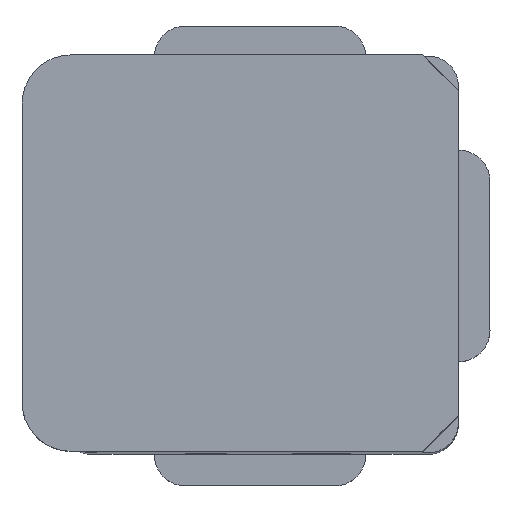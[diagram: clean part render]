
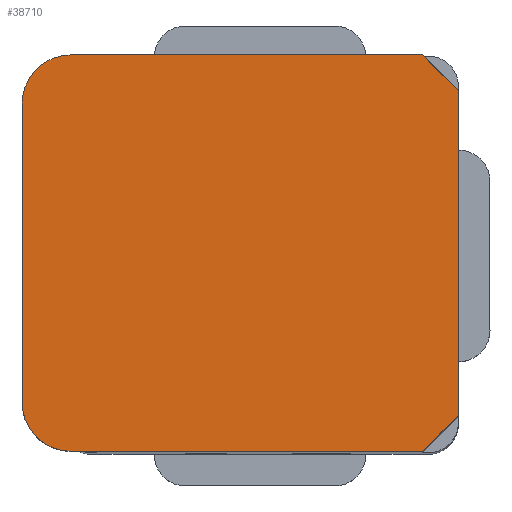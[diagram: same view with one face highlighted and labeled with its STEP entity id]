
A CAD part, top view. The second image highlights one B-rep face of the part: STEP entity #38710.
In plain terms, the highlighted planar face has unit normal (0, 0, 1) as drawn and (0, 0, -1) by its records, which use the part's own axes.
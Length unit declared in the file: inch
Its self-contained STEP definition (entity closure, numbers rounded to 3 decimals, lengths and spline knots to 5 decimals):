
#1592 = CARTESIAN_POINT ( 'NONE',  ( 529.55705, 725.54018, 0. ) ) ;
#2546 = CARTESIAN_POINT ( 'NONE',  ( 529.99985, 726.03978, 0. ) ) ;
#3257 = LINE ( 'NONE', #38481, #83906 ) ;
#5447 = DIRECTION ( 'NONE',  ( 0.707, -0.707, 0. ) ) ;
#8270 = VECTOR ( 'NONE', #24282, 39.37008 ) ;
#9091 = VERTEX_POINT ( 'NONE', #1592 ) ;
#10403 = EDGE_CURVE ( 'NONE', #9091, #76761, #51027, .T. ) ;
#11109 = CARTESIAN_POINT ( 'NONE',  ( 530.04485, 725.99478, 0. ) ) ;
#12837 = CARTESIAN_POINT ( 'NONE',  ( 529.55705, 726.03978, 0. ) ) ;
#13764 = VERTEX_POINT ( 'NONE', #11109 ) ;
#14160 = DIRECTION ( 'NONE',  ( -1., 0., 0. ) ) ;
#15188 = AXIS2_PLACEMENT_3D ( 'NONE', #79054, #23928, #31145 ) ;
#17184 = ORIENTED_EDGE ( 'NONE', *, *, #51628, .T. ) ;
#17497 = FACE_OUTER_BOUND ( 'NONE', #49788, .T. ) ;
#19946 = CARTESIAN_POINT ( 'NONE',  ( 529.99985, 726.03978, 0. ) ) ;
#22487 = DIRECTION ( 'NONE',  ( 0., 0., -1. ) ) ;
#23928 = DIRECTION ( 'NONE',  ( 0., 0., -1. ) ) ;
#24282 = DIRECTION ( 'NONE',  ( 1., 0., 0. ) ) ;
#27698 = LINE ( 'NONE', #55633, #42235 ) ;
#27944 = EDGE_CURVE ( 'NONE', #53777, #71988, #64446, .T. ) ;
#29271 = CARTESIAN_POINT ( 'NONE',  ( 530.04485, 725.58518, 0. ) ) ;
#30629 = CARTESIAN_POINT ( 'NONE',  ( 529.49505, 725.60218, 0. ) ) ;
#31145 = DIRECTION ( 'NONE',  ( -1., 0., 0. ) ) ;
#33556 = DIRECTION ( 'NONE',  ( 0., 0., -1. ) ) ;
#33796 = CARTESIAN_POINT ( 'NONE',  ( 529.49505, 725.97778, 0. ) ) ;
#34721 = ORIENTED_EDGE ( 'NONE', *, *, #27944, .T. ) ;
#35980 = PLANE ( 'NONE',  #60608 ) ;
#37131 = VECTOR ( 'NONE', #5447, 39.37008 ) ;
#38250 = CIRCLE ( 'NONE', #15188, 0.062 ) ;
#38481 = CARTESIAN_POINT ( 'NONE',  ( 529.99985, 725.54018, 0. ) ) ;
#38710 = ADVANCED_FACE ( 'NONE', ( #17497 ), #35980, .T. ) ;
#39413 = EDGE_CURVE ( 'NONE', #50187, #71251, #3257, .T. ) ;
#42134 = EDGE_CURVE ( 'NONE', #57836, #53777, #38250, .T. ) ;
#42235 = VECTOR ( 'NONE', #75156, 39.37008 ) ;
#43551 = EDGE_CURVE ( 'NONE', #71251, #9091, #73041, .T. ) ;
#48093 = EDGE_CURVE ( 'NONE', #76761, #57836, #27698, .T. ) ;
#49788 = EDGE_LOOP ( 'NONE', ( #34721, #79256, #17184, #63388, #85079, #83232, #67287, #57635 ) ) ;
#50187 = VERTEX_POINT ( 'NONE', #61597 ) ;
#51027 = CIRCLE ( 'NONE', #78544, 0.062 ) ;
#51628 = EDGE_CURVE ( 'NONE', #13764, #50187, #58574, .T. ) ;
#51786 = CARTESIAN_POINT ( 'NONE',  ( 529.99985, 725.54018, 0. ) ) ;
#53777 = VERTEX_POINT ( 'NONE', #12837 ) ;
#55633 = CARTESIAN_POINT ( 'NONE',  ( 529.49505, 725.60218, 0. ) ) ;
#55674 = CARTESIAN_POINT ( 'NONE',  ( 529.99985, 726.03978, 0. ) ) ;
#57189 = DIRECTION ( 'NONE',  ( -1., 0., 0. ) ) ;
#57635 = ORIENTED_EDGE ( 'NONE', *, *, #42134, .T. ) ;
#57836 = VERTEX_POINT ( 'NONE', #33796 ) ;
#58313 = DIRECTION ( 'NONE',  ( -0.707, -0.707, 0. ) ) ;
#58574 = LINE ( 'NONE', #29271, #74663 ) ;
#60207 = CARTESIAN_POINT ( 'NONE',  ( 529.99985, 725.54018, 0. ) ) ;
#60608 = AXIS2_PLACEMENT_3D ( 'NONE', #84387, #22487, #57189 ) ;
#61597 = CARTESIAN_POINT ( 'NONE',  ( 530.04485, 725.58518, 0. ) ) ;
#63388 = ORIENTED_EDGE ( 'NONE', *, *, #39413, .T. ) ;
#64446 = LINE ( 'NONE', #2546, #8270 ) ;
#66726 = EDGE_CURVE ( 'NONE', #71988, #13764, #80058, .T. ) ;
#67287 = ORIENTED_EDGE ( 'NONE', *, *, #48093, .T. ) ;
#71251 = VERTEX_POINT ( 'NONE', #60207 ) ;
#71988 = VERTEX_POINT ( 'NONE', #55674 ) ;
#73041 = LINE ( 'NONE', #51786, #86240 ) ;
#74663 = VECTOR ( 'NONE', #77644, 39.37008 ) ;
#75156 = DIRECTION ( 'NONE',  ( 0., 1., 0. ) ) ;
#76013 = CARTESIAN_POINT ( 'NONE',  ( 529.55705, 725.60218, 0. ) ) ;
#76761 = VERTEX_POINT ( 'NONE', #30629 ) ;
#77644 = DIRECTION ( 'NONE',  ( 0., -1., 0. ) ) ;
#78544 = AXIS2_PLACEMENT_3D ( 'NONE', #76013, #33556, #14160 ) ;
#79054 = CARTESIAN_POINT ( 'NONE',  ( 529.55705, 725.97778, 0. ) ) ;
#79256 = ORIENTED_EDGE ( 'NONE', *, *, #66726, .T. ) ;
#80058 = LINE ( 'NONE', #19946, #37131 ) ;
#81206 = DIRECTION ( 'NONE',  ( -1., 0., 0. ) ) ;
#83232 = ORIENTED_EDGE ( 'NONE', *, *, #10403, .T. ) ;
#83906 = VECTOR ( 'NONE', #58313, 39.37008 ) ;
#84387 = CARTESIAN_POINT ( 'NONE',  ( 529.55705, 725.97778, 0. ) ) ;
#85079 = ORIENTED_EDGE ( 'NONE', *, *, #43551, .T. ) ;
#86240 = VECTOR ( 'NONE', #81206, 39.37008 ) ;
